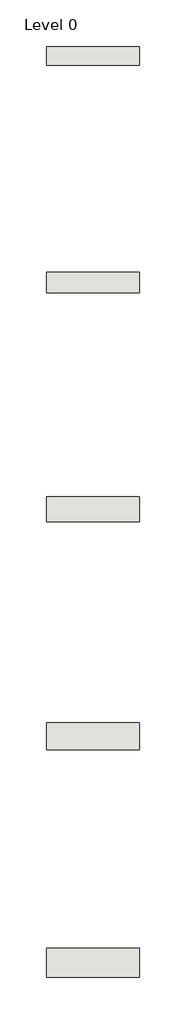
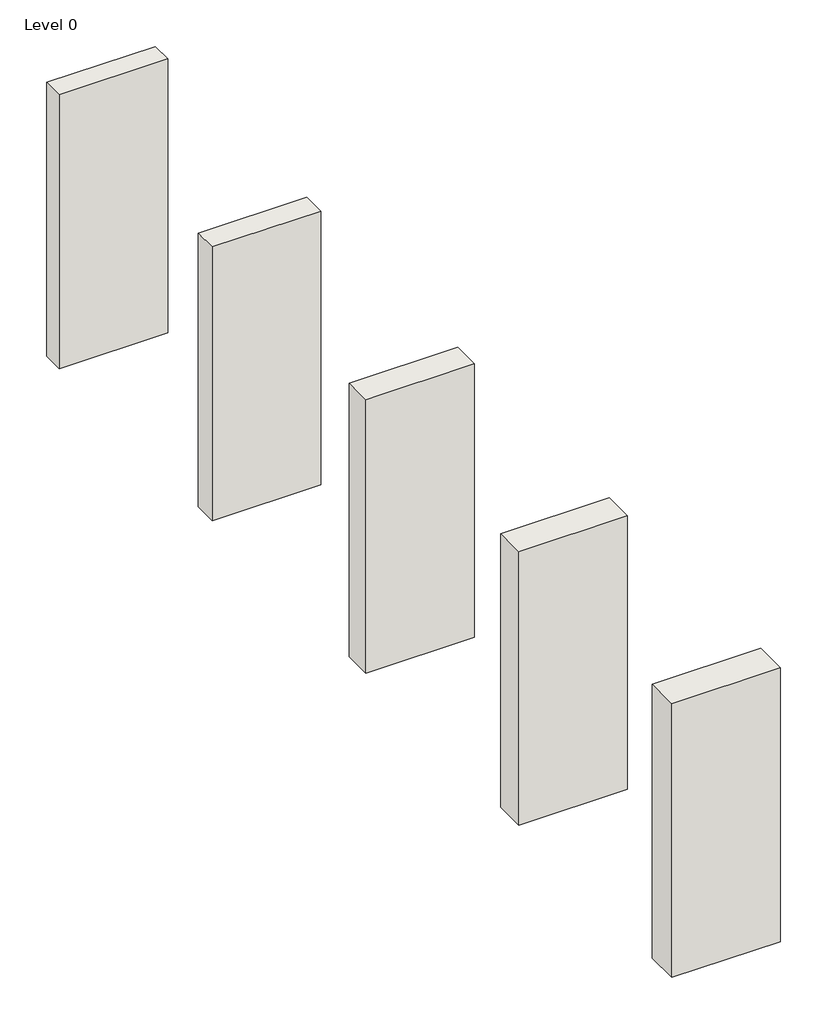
# One storey, incomplete: 5 walls.
"""IFC4 building model written with IfcOpenShell, lengths in millimetres."""

from ifc_helpers import new_model, si_unit, origin, origin_with_axes, place, context, project, spatial, polyline, outline, extrude, element, save

model = new_model("IFC4")

# Units and contexts
model_context = context("Model", 3, world=origin())
ifc_project = project(units=[si_unit("LENGTHUNIT", "METRE", prefix="MILLI")], contexts=[model_context])

# Site, building, storey
site = spatial("IfcSite", under=ifc_project)
building = spatial("IfcBuilding", under=site)
storey = spatial("IfcBuildingStorey", under=building, Name="Level 0", Elevation=0.0)

# Walls
placement = place(None, origin())
element("IfcWall", 1, ObjectType="Kingspan Kooltherm® K8 Plus Cavity Board - 90mm", at=placement, inside=storey, context=model_context, shape_type="SweptSolid", body=[
    extrude(outline(polyline([(-4933.3075246, 5672.1331063), (-4483.3075246, 5672.1331063), (-4483.3075246, 5582.1331063), (-4933.3075246, 5582.1331063), (-4933.3075246, 5672.1331063)])), origin_with_axes(), (0.0, 0.0, 1.0), 1200.0),
])
element("IfcWall", 2, ObjectType="Kingspan Kooltherm® K8 Plus Cavity Board - 100mm", at=placement, inside=storey, context=model_context, shape_type="SweptSolid", body=[
    extrude(outline(polyline([(-4933.3075246, 4583.3830713), (-4483.3075246, 4583.3830713), (-4483.3075246, 4483.3830713), (-4933.3075246, 4483.3830713), (-4933.3075246, 4583.3830713)])), origin_with_axes(), (0.0, 0.0, 1.0), 1200.0),
])
element("IfcWall", 3, ObjectType="Kingspan Kooltherm® K8 Plus Cavity Board - 120mm", at=placement, inside=storey, context=model_context, shape_type="SweptSolid", body=[
    extrude(outline(polyline([(-4933.3075246, 3499.6330363), (-4483.3075246, 3499.6330363), (-4483.3075246, 3379.6330363), (-4933.3075246, 3379.6330363), (-4933.3075246, 3499.6330363)])), origin_with_axes(), (0.0, 0.0, 1.0), 1200.0),
])
element("IfcWall", 4, ObjectType="Kingspan Kooltherm® K8 Plus Cavity Board - 130mm", at=placement, inside=storey, context=model_context, shape_type="SweptSolid", body=[
    extrude(outline(polyline([(-4933.3075246, 2410.8830013), (-4483.3075246, 2410.8830013), (-4483.3075246, 2280.8830013), (-4933.3075246, 2280.8830013), (-4933.3075246, 2410.8830013)])), origin_with_axes(), (0.0, 0.0, 1.0), 1200.0),
])
element("IfcWall", 5, ObjectType="Kingspan Kooltherm® K8 Plus Cavity Board - 140mm", at=placement, inside=storey, context=model_context, shape_type="SweptSolid", body=[
    extrude(outline(polyline([(-4933.3075246, 1322.1329663), (-4483.3075246, 1322.1329663), (-4483.3075246, 1182.1329663), (-4933.3075246, 1182.1329663), (-4933.3075246, 1322.1329663)])), origin_with_axes(), (0.0, 0.0, 1.0), 1200.0),
])

save(model, "model.ifc")
